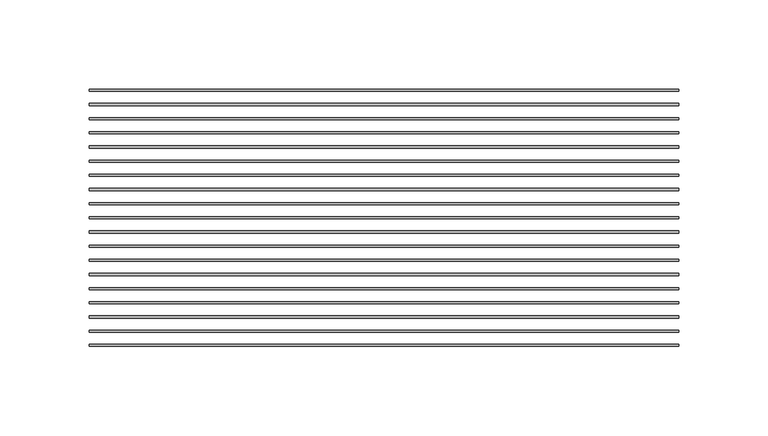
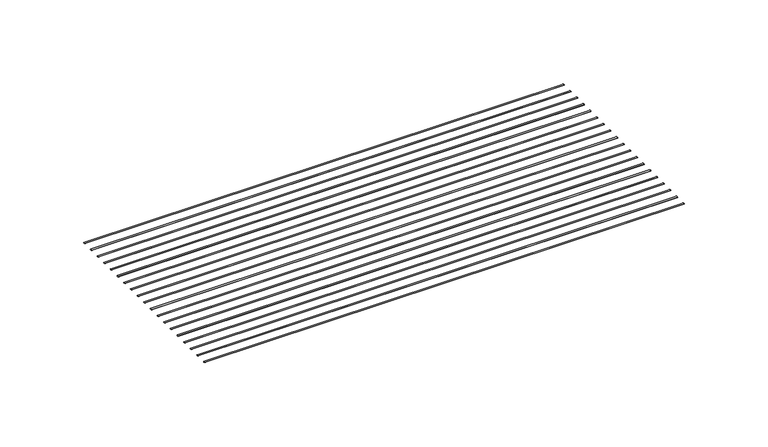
"""IFC4 building model written with IfcOpenShell, lengths in millimetres: proxy geometry, CRAi Generic Model Mesh Piece Face Based : CRAi Generic Model Mesh Piece Face Based."""

from ifc_helpers import new_model, si_unit, point, frame, origin, place, context, project, spatial, ellipse_curve, trimmed, source, transform, mapped, element, save
from ifc_brep_helpers import plane_surface, extruded_surface, advanced_brep


def generic_models_6ac29540(model_context):
    return source(origin(), model_context, "Body", "AdvancedBrep", [
        advanced_brep(
        [(-165.1, -81.1609375, -2.9765625), (-165.1, -82.3515625, -2.9765625), (165.1, -81.1609375, -2.9765625), (165.1, -82.3515625, -2.9765625)],
        [
            (0, 1, ellipse_curve(frame((-165.1, -81.75625, -2.9765625), z_axis=(-1.0, 0.0, 0.0), x_axis=(0.0, -1.0, 0.0)), 0.5953125, 0.1984375)),
            (1, 0, ellipse_curve(frame((-165.1, -81.75625, -2.9765625), z_axis=(-1.0, 0.0, 0.0), x_axis=(0.0, -1.0, 0.0)), 0.5953125, 0.1984375)),
            (2, 3, ellipse_curve(frame((165.1, -81.75625, -2.9765625), z_axis=(1.0, 0.0, 0.0), x_axis=(0.0, -1.0, 0.0)), 0.5953125, 0.1984375)),
            (3, 2, ellipse_curve(frame((165.1, -81.75625, -2.9765625), z_axis=(1.0, 0.0, 0.0), x_axis=(0.0, -1.0, 0.0)), 0.5953125, 0.1984375)),
            (0, 2),
            (3, 1),
        ],
        [
            plane_surface(frame((-165.1, -81.75625, -2.9765625), z_axis=(-1.0, 0.0, 0.0), x_axis=(0.0, 0.0, 1.0))),
            plane_surface(frame((165.1, -81.75625, -2.9765625), z_axis=(1.0, 0.0, 0.0), x_axis=(0.0, 0.0, 1.0))),
            extruded_surface(trimmed(ellipse_curve(frame((165.1, -81.75625, -2.9765625), z_axis=(-1.0, 0.0, 0.0), x_axis=(0.0, -1.0, 0.0)), 0.5953125, 0.1984375), [point((165.1, -81.1609375, -2.9765625))], [point((165.1, -82.3515625, -2.9765625))], True, "CARTESIAN"), (-330.2, 0.0, 0.0), 330.2),
            extruded_surface(trimmed(ellipse_curve(frame((165.1, -81.75625, -2.9765625), z_axis=(-1.0, 0.0, 0.0), x_axis=(0.0, -1.0, 0.0)), 0.5953125, 0.1984375), [point((165.1, -82.3515625, -2.9765625))], [point((165.1, -81.1609375, -2.9765625))], True, "CARTESIAN"), (-330.2, 0.0, 0.0), 330.2),
        ],
        [
            (0, [[1, 2]]),
            (1, [[3, 4]]),
            (2, [[-1, 5, -4, 6]]),
            (3, [[-2, -6, -3, -5]]),
        ],
    ),
        advanced_brep(
        [(-165.1, -89.0984375, -2.9765625), (-165.1, -90.2890625, -2.9765625), (165.1, -89.0984375, -2.9765625), (165.1, -90.2890625, -2.9765625)],
        [
            (0, 1, ellipse_curve(frame((-165.1, -89.69375, -2.9765625), z_axis=(-1.0, 0.0, 0.0), x_axis=(0.0, -1.0, 0.0)), 0.5953125, 0.1984375)),
            (1, 0, ellipse_curve(frame((-165.1, -89.69375, -2.9765625), z_axis=(-1.0, 0.0, 0.0), x_axis=(0.0, -1.0, 0.0)), 0.5953125, 0.1984375)),
            (2, 3, ellipse_curve(frame((165.1, -89.69375, -2.9765625), z_axis=(1.0, 0.0, 0.0), x_axis=(0.0, -1.0, 0.0)), 0.5953125, 0.1984375)),
            (3, 2, ellipse_curve(frame((165.1, -89.69375, -2.9765625), z_axis=(1.0, 0.0, 0.0), x_axis=(0.0, -1.0, 0.0)), 0.5953125, 0.1984375)),
            (0, 2),
            (3, 1),
        ],
        [
            plane_surface(frame((-165.1, -89.69375, -2.9765625), z_axis=(-1.0, 0.0, 0.0), x_axis=(0.0, 0.0, 1.0))),
            plane_surface(frame((165.1, -89.69375, -2.9765625), z_axis=(1.0, 0.0, 0.0), x_axis=(0.0, 0.0, 1.0))),
            extruded_surface(trimmed(ellipse_curve(frame((165.1, -89.69375, -2.9765625), z_axis=(-1.0, 0.0, 0.0), x_axis=(0.0, -1.0, 0.0)), 0.5953125, 0.1984375), [point((165.1, -89.0984375, -2.9765625))], [point((165.1, -90.2890625, -2.9765625))], True, "CARTESIAN"), (-330.2, 0.0, 0.0), 330.2),
            extruded_surface(trimmed(ellipse_curve(frame((165.1, -89.69375, -2.9765625), z_axis=(-1.0, 0.0, 0.0), x_axis=(0.0, -1.0, 0.0)), 0.5953125, 0.1984375), [point((165.1, -90.2890625, -2.9765625))], [point((165.1, -89.0984375, -2.9765625))], True, "CARTESIAN"), (-330.2, 0.0, 0.0), 330.2),
        ],
        [
            (0, [[1, 2]]),
            (1, [[3, 4]]),
            (2, [[-1, 5, -4, 6]]),
            (3, [[-2, -6, -3, -5]]),
        ],
    ),
        advanced_brep(
        [(-165.1, -97.0359375, -2.9765625), (-165.1, -98.2265625, -2.9765625), (165.1, -97.0359375, -2.9765625), (165.1, -98.2265625, -2.9765625)],
        [
            (0, 1, ellipse_curve(frame((-165.1, -97.63125, -2.9765625), z_axis=(-1.0, 0.0, 0.0), x_axis=(0.0, -1.0, 0.0)), 0.5953125, 0.1984375)),
            (1, 0, ellipse_curve(frame((-165.1, -97.63125, -2.9765625), z_axis=(-1.0, 0.0, 0.0), x_axis=(0.0, -1.0, 0.0)), 0.5953125, 0.1984375)),
            (2, 3, ellipse_curve(frame((165.1, -97.63125, -2.9765625), z_axis=(1.0, 0.0, 0.0), x_axis=(0.0, -1.0, 0.0)), 0.5953125, 0.1984375)),
            (3, 2, ellipse_curve(frame((165.1, -97.63125, -2.9765625), z_axis=(1.0, 0.0, 0.0), x_axis=(0.0, -1.0, 0.0)), 0.5953125, 0.1984375)),
            (0, 2),
            (3, 1),
        ],
        [
            plane_surface(frame((-165.1, -97.63125, -2.9765625), z_axis=(-1.0, 0.0, 0.0), x_axis=(0.0, 0.0, 1.0))),
            plane_surface(frame((165.1, -97.63125, -2.9765625), z_axis=(1.0, 0.0, 0.0), x_axis=(0.0, 0.0, 1.0))),
            extruded_surface(trimmed(ellipse_curve(frame((165.1, -97.63125, -2.9765625), z_axis=(-1.0, 0.0, 0.0), x_axis=(0.0, -1.0, 0.0)), 0.5953125, 0.1984375), [point((165.1, -97.0359375, -2.9765625))], [point((165.1, -98.2265625, -2.9765625))], True, "CARTESIAN"), (-330.2, 0.0, 0.0), 330.2),
            extruded_surface(trimmed(ellipse_curve(frame((165.1, -97.63125, -2.9765625), z_axis=(-1.0, 0.0, 0.0), x_axis=(0.0, -1.0, 0.0)), 0.5953125, 0.1984375), [point((165.1, -98.2265625, -2.9765625))], [point((165.1, -97.0359375, -2.9765625))], True, "CARTESIAN"), (-330.2, 0.0, 0.0), 330.2),
        ],
        [
            (0, [[1, 2]]),
            (1, [[3, 4]]),
            (2, [[-1, 5, -4, 6]]),
            (3, [[-2, -6, -3, -5]]),
        ],
    ),
        advanced_brep(
        [(-165.1, -104.9734375, -2.9765625), (-165.1, -106.1640625, -2.9765625), (165.1, -104.9734375, -2.9765625), (165.1, -106.1640625, -2.9765625)],
        [
            (0, 1, ellipse_curve(frame((-165.1, -105.56875, -2.9765625), z_axis=(-1.0, 0.0, 0.0), x_axis=(0.0, -1.0, 0.0)), 0.5953125, 0.1984375)),
            (1, 0, ellipse_curve(frame((-165.1, -105.56875, -2.9765625), z_axis=(-1.0, 0.0, 0.0), x_axis=(0.0, -1.0, 0.0)), 0.5953125, 0.1984375)),
            (2, 3, ellipse_curve(frame((165.1, -105.56875, -2.9765625), z_axis=(1.0, 0.0, 0.0), x_axis=(0.0, -1.0, 0.0)), 0.5953125, 0.1984375)),
            (3, 2, ellipse_curve(frame((165.1, -105.56875, -2.9765625), z_axis=(1.0, 0.0, 0.0), x_axis=(0.0, -1.0, 0.0)), 0.5953125, 0.1984375)),
            (0, 2),
            (3, 1),
        ],
        [
            plane_surface(frame((-165.1, -105.56875, -2.9765625), z_axis=(-1.0, 0.0, 0.0), x_axis=(0.0, 0.0, 1.0))),
            plane_surface(frame((165.1, -105.56875, -2.9765625), z_axis=(1.0, 0.0, 0.0), x_axis=(0.0, 0.0, 1.0))),
            extruded_surface(trimmed(ellipse_curve(frame((165.1, -105.56875, -2.9765625), z_axis=(-1.0, 0.0, 0.0), x_axis=(0.0, -1.0, 0.0)), 0.5953125, 0.1984375), [point((165.1, -104.9734375, -2.9765625))], [point((165.1, -106.1640625, -2.9765625))], True, "CARTESIAN"), (-330.2, 0.0, 0.0), 330.2),
            extruded_surface(trimmed(ellipse_curve(frame((165.1, -105.56875, -2.9765625), z_axis=(-1.0, 0.0, 0.0), x_axis=(0.0, -1.0, 0.0)), 0.5953125, 0.1984375), [point((165.1, -106.1640625, -2.9765625))], [point((165.1, -104.9734375, -2.9765625))], True, "CARTESIAN"), (-330.2, 0.0, 0.0), 330.2),
        ],
        [
            (0, [[1, 2]]),
            (1, [[3, 4]]),
            (2, [[-1, 5, -4, 6]]),
            (3, [[-2, -6, -3, -5]]),
        ],
    ),
        advanced_brep(
        [(-165.1, -112.9109375, -2.9765625), (-165.1, -114.1015625, -2.9765625), (165.1, -112.9109375, -2.9765625), (165.1, -114.1015625, -2.9765625)],
        [
            (0, 1, ellipse_curve(frame((-165.1, -113.50625, -2.9765625), z_axis=(-1.0, 0.0, 0.0), x_axis=(0.0, -1.0, 0.0)), 0.5953125, 0.1984375)),
            (1, 0, ellipse_curve(frame((-165.1, -113.50625, -2.9765625), z_axis=(-1.0, 0.0, 0.0), x_axis=(0.0, -1.0, 0.0)), 0.5953125, 0.1984375)),
            (2, 3, ellipse_curve(frame((165.1, -113.50625, -2.9765625), z_axis=(1.0, 0.0, 0.0), x_axis=(0.0, -1.0, 0.0)), 0.5953125, 0.1984375)),
            (3, 2, ellipse_curve(frame((165.1, -113.50625, -2.9765625), z_axis=(1.0, 0.0, 0.0), x_axis=(0.0, -1.0, 0.0)), 0.5953125, 0.1984375)),
            (0, 2),
            (3, 1),
        ],
        [
            plane_surface(frame((-165.1, -113.50625, -2.9765625), z_axis=(-1.0, 0.0, 0.0), x_axis=(0.0, 0.0, 1.0))),
            plane_surface(frame((165.1, -113.50625, -2.9765625), z_axis=(1.0, 0.0, 0.0), x_axis=(0.0, 0.0, 1.0))),
            extruded_surface(trimmed(ellipse_curve(frame((165.1, -113.50625, -2.9765625), z_axis=(-1.0, 0.0, 0.0), x_axis=(0.0, -1.0, 0.0)), 0.5953125, 0.1984375), [point((165.1, -112.9109375, -2.9765625))], [point((165.1, -114.1015625, -2.9765625))], True, "CARTESIAN"), (-330.2, 0.0, 0.0), 330.2),
            extruded_surface(trimmed(ellipse_curve(frame((165.1, -113.50625, -2.9765625), z_axis=(-1.0, 0.0, 0.0), x_axis=(0.0, -1.0, 0.0)), 0.5953125, 0.1984375), [point((165.1, -114.1015625, -2.9765625))], [point((165.1, -112.9109375, -2.9765625))], True, "CARTESIAN"), (-330.2, 0.0, 0.0), 330.2),
        ],
        [
            (0, [[1, 2]]),
            (1, [[3, 4]]),
            (2, [[-1, 5, -4, 6]]),
            (3, [[-2, -6, -3, -5]]),
        ],
    ),
        advanced_brep(
        [(-165.1, -120.8484375, -2.9765625), (-165.1, -122.0390625, -2.9765625), (165.1, -120.8484375, -2.9765625), (165.1, -122.0390625, -2.9765625)],
        [
            (0, 1, ellipse_curve(frame((-165.1, -121.44375, -2.9765625), z_axis=(-1.0, 0.0, 0.0), x_axis=(0.0, -1.0, 0.0)), 0.5953125, 0.1984375)),
            (1, 0, ellipse_curve(frame((-165.1, -121.44375, -2.9765625), z_axis=(-1.0, 0.0, 0.0), x_axis=(0.0, -1.0, 0.0)), 0.5953125, 0.1984375)),
            (2, 3, ellipse_curve(frame((165.1, -121.44375, -2.9765625), z_axis=(1.0, 0.0, 0.0), x_axis=(0.0, -1.0, 0.0)), 0.5953125, 0.1984375)),
            (3, 2, ellipse_curve(frame((165.1, -121.44375, -2.9765625), z_axis=(1.0, 0.0, 0.0), x_axis=(0.0, -1.0, 0.0)), 0.5953125, 0.1984375)),
            (0, 2),
            (3, 1),
        ],
        [
            plane_surface(frame((-165.1, -121.44375, -2.9765625), z_axis=(-1.0, 0.0, 0.0), x_axis=(0.0, 0.0, 1.0))),
            plane_surface(frame((165.1, -121.44375, -2.9765625), z_axis=(1.0, 0.0, 0.0), x_axis=(0.0, 0.0, 1.0))),
            extruded_surface(trimmed(ellipse_curve(frame((165.1, -121.44375, -2.9765625), z_axis=(-1.0, 0.0, 0.0), x_axis=(0.0, -1.0, 0.0)), 0.5953125, 0.1984375), [point((165.1, -120.8484375, -2.9765625))], [point((165.1, -122.0390625, -2.9765625))], True, "CARTESIAN"), (-330.2, 0.0, 0.0), 330.2),
            extruded_surface(trimmed(ellipse_curve(frame((165.1, -121.44375, -2.9765625), z_axis=(-1.0, 0.0, 0.0), x_axis=(0.0, -1.0, 0.0)), 0.5953125, 0.1984375), [point((165.1, -122.0390625, -2.9765625))], [point((165.1, -120.8484375, -2.9765625))], True, "CARTESIAN"), (-330.2, 0.0, 0.0), 330.2),
        ],
        [
            (0, [[1, 2]]),
            (1, [[3, 4]]),
            (2, [[-1, 5, -4, 6]]),
            (3, [[-2, -6, -3, -5]]),
        ],
    ),
        advanced_brep(
        [(-165.1, -128.7859375, -2.9765625), (-165.1, -129.9765625, -2.9765625), (165.1, -128.7859375, -2.9765625), (165.1, -129.9765625, -2.9765625)],
        [
            (0, 1, ellipse_curve(frame((-165.1, -129.38125, -2.9765625), z_axis=(-1.0, 0.0, 0.0), x_axis=(0.0, -1.0, 0.0)), 0.5953125, 0.1984375)),
            (1, 0, ellipse_curve(frame((-165.1, -129.38125, -2.9765625), z_axis=(-1.0, 0.0, 0.0), x_axis=(0.0, -1.0, 0.0)), 0.5953125, 0.1984375)),
            (2, 3, ellipse_curve(frame((165.1, -129.38125, -2.9765625), z_axis=(1.0, 0.0, 0.0), x_axis=(0.0, -1.0, 0.0)), 0.5953125, 0.1984375)),
            (3, 2, ellipse_curve(frame((165.1, -129.38125, -2.9765625), z_axis=(1.0, 0.0, 0.0), x_axis=(0.0, -1.0, 0.0)), 0.5953125, 0.1984375)),
            (0, 2),
            (3, 1),
        ],
        [
            plane_surface(frame((-165.1, -129.38125, -2.9765625), z_axis=(-1.0, 0.0, 0.0), x_axis=(0.0, 0.0, 1.0))),
            plane_surface(frame((165.1, -129.38125, -2.9765625), z_axis=(1.0, 0.0, 0.0), x_axis=(0.0, 0.0, 1.0))),
            extruded_surface(trimmed(ellipse_curve(frame((165.1, -129.38125, -2.9765625), z_axis=(-1.0, 0.0, 0.0), x_axis=(0.0, -1.0, 0.0)), 0.5953125, 0.1984375), [point((165.1, -128.7859375, -2.9765625))], [point((165.1, -129.9765625, -2.9765625))], True, "CARTESIAN"), (-330.2, 0.0, 0.0), 330.2),
            extruded_surface(trimmed(ellipse_curve(frame((165.1, -129.38125, -2.9765625), z_axis=(-1.0, 0.0, 0.0), x_axis=(0.0, -1.0, 0.0)), 0.5953125, 0.1984375), [point((165.1, -129.9765625, -2.9765625))], [point((165.1, -128.7859375, -2.9765625))], True, "CARTESIAN"), (-330.2, 0.0, 0.0), 330.2),
        ],
        [
            (0, [[1, 2]]),
            (1, [[3, 4]]),
            (2, [[-1, 5, -4, 6]]),
            (3, [[-2, -6, -3, -5]]),
        ],
    ),
        advanced_brep(
        [(-165.1, -136.7234375, -2.9765625), (-165.1, -137.9140625, -2.9765625), (165.1, -136.7234375, -2.9765625), (165.1, -137.9140625, -2.9765625)],
        [
            (0, 1, ellipse_curve(frame((-165.1, -137.31875, -2.9765625), z_axis=(-1.0, 0.0, 0.0), x_axis=(0.0, -1.0, 0.0)), 0.5953125, 0.1984375)),
            (1, 0, ellipse_curve(frame((-165.1, -137.31875, -2.9765625), z_axis=(-1.0, 0.0, 0.0), x_axis=(0.0, -1.0, 0.0)), 0.5953125, 0.1984375)),
            (2, 3, ellipse_curve(frame((165.1, -137.31875, -2.9765625), z_axis=(1.0, 0.0, 0.0), x_axis=(0.0, -1.0, 0.0)), 0.5953125, 0.1984375)),
            (3, 2, ellipse_curve(frame((165.1, -137.31875, -2.9765625), z_axis=(1.0, 0.0, 0.0), x_axis=(0.0, -1.0, 0.0)), 0.5953125, 0.1984375)),
            (0, 2),
            (3, 1),
        ],
        [
            plane_surface(frame((-165.1, -137.31875, -2.9765625), z_axis=(-1.0, 0.0, 0.0), x_axis=(0.0, 0.0, 1.0))),
            plane_surface(frame((165.1, -137.31875, -2.9765625), z_axis=(1.0, 0.0, 0.0), x_axis=(0.0, 0.0, 1.0))),
            extruded_surface(trimmed(ellipse_curve(frame((165.1, -137.31875, -2.9765625), z_axis=(-1.0, 0.0, 0.0), x_axis=(0.0, -1.0, 0.0)), 0.5953125, 0.1984375), [point((165.1, -136.7234375, -2.9765625))], [point((165.1, -137.9140625, -2.9765625))], True, "CARTESIAN"), (-330.2, 0.0, 0.0), 330.2),
            extruded_surface(trimmed(ellipse_curve(frame((165.1, -137.31875, -2.9765625), z_axis=(-1.0, 0.0, 0.0), x_axis=(0.0, -1.0, 0.0)), 0.5953125, 0.1984375), [point((165.1, -137.9140625, -2.9765625))], [point((165.1, -136.7234375, -2.9765625))], True, "CARTESIAN"), (-330.2, 0.0, 0.0), 330.2),
        ],
        [
            (0, [[1, 2]]),
            (1, [[3, 4]]),
            (2, [[-1, 5, -4, 6]]),
            (3, [[-2, -6, -3, -5]]),
        ],
    ),
        advanced_brep(
        [(-165.1, -144.6609375, -2.9765625), (-165.1, -145.8515625, -2.9765625), (165.1, -144.6609375, -2.9765625), (165.1, -145.8515625, -2.9765625)],
        [
            (0, 1, ellipse_curve(frame((-165.1, -145.25625, -2.9765625), z_axis=(-1.0, 0.0, 0.0), x_axis=(0.0, -1.0, 0.0)), 0.5953125, 0.1984375)),
            (1, 0, ellipse_curve(frame((-165.1, -145.25625, -2.9765625), z_axis=(-1.0, 0.0, 0.0), x_axis=(0.0, -1.0, 0.0)), 0.5953125, 0.1984375)),
            (2, 3, ellipse_curve(frame((165.1, -145.25625, -2.9765625), z_axis=(1.0, 0.0, 0.0), x_axis=(0.0, -1.0, 0.0)), 0.5953125, 0.1984375)),
            (3, 2, ellipse_curve(frame((165.1, -145.25625, -2.9765625), z_axis=(1.0, 0.0, 0.0), x_axis=(0.0, -1.0, 0.0)), 0.5953125, 0.1984375)),
            (0, 2),
            (3, 1),
        ],
        [
            plane_surface(frame((-165.1, -145.25625, -2.9765625), z_axis=(-1.0, 0.0, 0.0), x_axis=(0.0, 0.0, 1.0))),
            plane_surface(frame((165.1, -145.25625, -2.9765625), z_axis=(1.0, 0.0, 0.0), x_axis=(0.0, 0.0, 1.0))),
            extruded_surface(trimmed(ellipse_curve(frame((165.1, -145.25625, -2.9765625), z_axis=(-1.0, 0.0, 0.0), x_axis=(0.0, -1.0, 0.0)), 0.5953125, 0.1984375), [point((165.1, -144.6609375, -2.9765625))], [point((165.1, -145.8515625, -2.9765625))], True, "CARTESIAN"), (-330.2, 0.0, 0.0), 330.2),
            extruded_surface(trimmed(ellipse_curve(frame((165.1, -145.25625, -2.9765625), z_axis=(-1.0, 0.0, 0.0), x_axis=(0.0, -1.0, 0.0)), 0.5953125, 0.1984375), [point((165.1, -145.8515625, -2.9765625))], [point((165.1, -144.6609375, -2.9765625))], True, "CARTESIAN"), (-330.2, 0.0, 0.0), 330.2),
        ],
        [
            (0, [[1, 2]]),
            (1, [[3, 4]]),
            (2, [[-1, 5, -4, 6]]),
            (3, [[-2, -6, -3, -5]]),
        ],
    ),
        advanced_brep(
        [(-165.1, -152.5984375, -2.9765625), (-165.1, -153.7890625, -2.9765625), (165.1, -152.5984375, -2.9765625), (165.1, -153.7890625, -2.9765625)],
        [
            (0, 1, ellipse_curve(frame((-165.1, -153.19375, -2.9765625), z_axis=(-1.0, 0.0, 0.0), x_axis=(0.0, -1.0, 0.0)), 0.5953125, 0.1984375)),
            (1, 0, ellipse_curve(frame((-165.1, -153.19375, -2.9765625), z_axis=(-1.0, 0.0, 0.0), x_axis=(0.0, -1.0, 0.0)), 0.5953125, 0.1984375)),
            (2, 3, ellipse_curve(frame((165.1, -153.19375, -2.9765625), z_axis=(1.0, 0.0, 0.0), x_axis=(0.0, -1.0, 0.0)), 0.5953125, 0.1984375)),
            (3, 2, ellipse_curve(frame((165.1, -153.19375, -2.9765625), z_axis=(1.0, 0.0, 0.0), x_axis=(0.0, -1.0, 0.0)), 0.5953125, 0.1984375)),
            (0, 2),
            (3, 1),
        ],
        [
            plane_surface(frame((-165.1, -153.19375, -2.9765625), z_axis=(-1.0, 0.0, 0.0), x_axis=(0.0, 0.0, 1.0))),
            plane_surface(frame((165.1, -153.19375, -2.9765625), z_axis=(1.0, 0.0, 0.0), x_axis=(0.0, 0.0, 1.0))),
            extruded_surface(trimmed(ellipse_curve(frame((165.1, -153.19375, -2.9765625), z_axis=(-1.0, 0.0, 0.0), x_axis=(0.0, -1.0, 0.0)), 0.5953125, 0.1984375), [point((165.1, -152.5984375, -2.9765625))], [point((165.1, -153.7890625, -2.9765625))], True, "CARTESIAN"), (-330.2, 0.0, 0.0), 330.2),
            extruded_surface(trimmed(ellipse_curve(frame((165.1, -153.19375, -2.9765625), z_axis=(-1.0, 0.0, 0.0), x_axis=(0.0, -1.0, 0.0)), 0.5953125, 0.1984375), [point((165.1, -153.7890625, -2.9765625))], [point((165.1, -152.5984375, -2.9765625))], True, "CARTESIAN"), (-330.2, 0.0, 0.0), 330.2),
        ],
        [
            (0, [[1, 2]]),
            (1, [[3, 4]]),
            (2, [[-1, 5, -4, 6]]),
            (3, [[-2, -6, -3, -5]]),
        ],
    ),
        advanced_brep(
        [(-165.1, -160.5359375, -2.9765625), (-165.1, -161.7265625, -2.9765625), (165.1, -160.5359375, -2.9765625), (165.1, -161.7265625, -2.9765625)],
        [
            (0, 1, ellipse_curve(frame((-165.1, -161.13125, -2.9765625), z_axis=(-1.0, 0.0, 0.0), x_axis=(0.0, -1.0, 0.0)), 0.5953125, 0.1984375)),
            (1, 0, ellipse_curve(frame((-165.1, -161.13125, -2.9765625), z_axis=(-1.0, 0.0, 0.0), x_axis=(0.0, -1.0, 0.0)), 0.5953125, 0.1984375)),
            (2, 3, ellipse_curve(frame((165.1, -161.13125, -2.9765625), z_axis=(1.0, 0.0, 0.0), x_axis=(0.0, -1.0, 0.0)), 0.5953125, 0.1984375)),
            (3, 2, ellipse_curve(frame((165.1, -161.13125, -2.9765625), z_axis=(1.0, 0.0, 0.0), x_axis=(0.0, -1.0, 0.0)), 0.5953125, 0.1984375)),
            (0, 2),
            (3, 1),
        ],
        [
            plane_surface(frame((-165.1, -161.13125, -2.9765625), z_axis=(-1.0, 0.0, 0.0), x_axis=(0.0, 0.0, 1.0))),
            plane_surface(frame((165.1, -161.13125, -2.9765625), z_axis=(1.0, 0.0, 0.0), x_axis=(0.0, 0.0, 1.0))),
            extruded_surface(trimmed(ellipse_curve(frame((165.1, -161.13125, -2.9765625), z_axis=(-1.0, 0.0, 0.0), x_axis=(0.0, -1.0, 0.0)), 0.5953125, 0.1984375), [point((165.1, -160.5359375, -2.9765625))], [point((165.1, -161.7265625, -2.9765625))], True, "CARTESIAN"), (-330.2, 0.0, 0.0), 330.2),
            extruded_surface(trimmed(ellipse_curve(frame((165.1, -161.13125, -2.9765625), z_axis=(-1.0, 0.0, 0.0), x_axis=(0.0, -1.0, 0.0)), 0.5953125, 0.1984375), [point((165.1, -161.7265625, -2.9765625))], [point((165.1, -160.5359375, -2.9765625))], True, "CARTESIAN"), (-330.2, 0.0, 0.0), 330.2),
        ],
        [
            (0, [[1, 2]]),
            (1, [[3, 4]]),
            (2, [[-1, 5, -4, 6]]),
            (3, [[-2, -6, -3, -5]]),
        ],
    ),
        advanced_brep(
        [(-165.1, -168.4734375, -2.9765625), (-165.1, -169.6640625, -2.9765625), (165.1, -168.4734375, -2.9765625), (165.1, -169.6640625, -2.9765625)],
        [
            (0, 1, ellipse_curve(frame((-165.1, -169.06875, -2.9765625), z_axis=(-1.0, 0.0, 0.0), x_axis=(0.0, -1.0, 0.0)), 0.5953125, 0.1984375)),
            (1, 0, ellipse_curve(frame((-165.1, -169.06875, -2.9765625), z_axis=(-1.0, 0.0, 0.0), x_axis=(0.0, -1.0, 0.0)), 0.5953125, 0.1984375)),
            (2, 3, ellipse_curve(frame((165.1, -169.06875, -2.9765625), z_axis=(1.0, 0.0, 0.0), x_axis=(0.0, -1.0, 0.0)), 0.5953125, 0.1984375)),
            (3, 2, ellipse_curve(frame((165.1, -169.06875, -2.9765625), z_axis=(1.0, 0.0, 0.0), x_axis=(0.0, -1.0, 0.0)), 0.5953125, 0.1984375)),
            (0, 2),
            (3, 1),
        ],
        [
            plane_surface(frame((-165.1, -169.06875, -2.9765625), z_axis=(-1.0, 0.0, 0.0), x_axis=(0.0, 0.0, 1.0))),
            plane_surface(frame((165.1, -169.06875, -2.9765625), z_axis=(1.0, 0.0, 0.0), x_axis=(0.0, 0.0, 1.0))),
            extruded_surface(trimmed(ellipse_curve(frame((165.1, -169.06875, -2.9765625), z_axis=(-1.0, 0.0, 0.0), x_axis=(0.0, -1.0, 0.0)), 0.5953125, 0.1984375), [point((165.1, -168.4734375, -2.9765625))], [point((165.1, -169.6640625, -2.9765625))], True, "CARTESIAN"), (-330.2, 0.0, 0.0), 330.2),
            extruded_surface(trimmed(ellipse_curve(frame((165.1, -169.06875, -2.9765625), z_axis=(-1.0, 0.0, 0.0), x_axis=(0.0, -1.0, 0.0)), 0.5953125, 0.1984375), [point((165.1, -169.6640625, -2.9765625))], [point((165.1, -168.4734375, -2.9765625))], True, "CARTESIAN"), (-330.2, 0.0, 0.0), 330.2),
        ],
        [
            (0, [[1, 2]]),
            (1, [[3, 4]]),
            (2, [[-1, 5, -4, 6]]),
            (3, [[-2, -6, -3, -5]]),
        ],
    ),
        advanced_brep(
        [(-165.1, -176.4109375, -2.9765625), (-165.1, -177.6015625, -2.9765625), (165.1, -176.4109375, -2.9765625), (165.1, -177.6015625, -2.9765625)],
        [
            (0, 1, ellipse_curve(frame((-165.1, -177.00625, -2.9765625), z_axis=(-1.0, 0.0, 0.0), x_axis=(0.0, -1.0, 0.0)), 0.5953125, 0.1984375)),
            (1, 0, ellipse_curve(frame((-165.1, -177.00625, -2.9765625), z_axis=(-1.0, 0.0, 0.0), x_axis=(0.0, -1.0, 0.0)), 0.5953125, 0.1984375)),
            (2, 3, ellipse_curve(frame((165.1, -177.00625, -2.9765625), z_axis=(1.0, 0.0, 0.0), x_axis=(0.0, -1.0, 0.0)), 0.5953125, 0.1984375)),
            (3, 2, ellipse_curve(frame((165.1, -177.00625, -2.9765625), z_axis=(1.0, 0.0, 0.0), x_axis=(0.0, -1.0, 0.0)), 0.5953125, 0.1984375)),
            (0, 2),
            (3, 1),
        ],
        [
            plane_surface(frame((-165.1, -177.00625, -2.9765625), z_axis=(-1.0, 0.0, 0.0), x_axis=(0.0, 0.0, 1.0))),
            plane_surface(frame((165.1, -177.00625, -2.9765625), z_axis=(1.0, 0.0, 0.0), x_axis=(0.0, 0.0, 1.0))),
            extruded_surface(trimmed(ellipse_curve(frame((165.1, -177.00625, -2.9765625), z_axis=(-1.0, 0.0, 0.0), x_axis=(0.0, -1.0, 0.0)), 0.5953125, 0.1984375), [point((165.1, -176.4109375, -2.9765625))], [point((165.1, -177.6015625, -2.9765625))], True, "CARTESIAN"), (-330.2, 0.0, 0.0), 330.2),
            extruded_surface(trimmed(ellipse_curve(frame((165.1, -177.00625, -2.9765625), z_axis=(-1.0, 0.0, 0.0), x_axis=(0.0, -1.0, 0.0)), 0.5953125, 0.1984375), [point((165.1, -177.6015625, -2.9765625))], [point((165.1, -176.4109375, -2.9765625))], True, "CARTESIAN"), (-330.2, 0.0, 0.0), 330.2),
        ],
        [
            (0, [[1, 2]]),
            (1, [[3, 4]]),
            (2, [[-1, 5, -4, 6]]),
            (3, [[-2, -6, -3, -5]]),
        ],
    ),
        advanced_brep(
        [(-165.1, -184.3484375, -2.9765625), (-165.1, -185.5390625, -2.9765625), (165.1, -184.3484375, -2.9765625), (165.1, -185.5390625, -2.9765625)],
        [
            (0, 1, ellipse_curve(frame((-165.1, -184.94375, -2.9765625), z_axis=(-1.0, 0.0, 0.0), x_axis=(0.0, -1.0, 0.0)), 0.5953125, 0.1984375)),
            (1, 0, ellipse_curve(frame((-165.1, -184.94375, -2.9765625), z_axis=(-1.0, 0.0, 0.0), x_axis=(0.0, -1.0, 0.0)), 0.5953125, 0.1984375)),
            (2, 3, ellipse_curve(frame((165.1, -184.94375, -2.9765625), z_axis=(1.0, 0.0, 0.0), x_axis=(0.0, -1.0, 0.0)), 0.5953125, 0.1984375)),
            (3, 2, ellipse_curve(frame((165.1, -184.94375, -2.9765625), z_axis=(1.0, 0.0, 0.0), x_axis=(0.0, -1.0, 0.0)), 0.5953125, 0.1984375)),
            (0, 2),
            (3, 1),
        ],
        [
            plane_surface(frame((-165.1, -184.94375, -2.9765625), z_axis=(-1.0, 0.0, 0.0), x_axis=(0.0, 0.0, 1.0))),
            plane_surface(frame((165.1, -184.94375, -2.9765625), z_axis=(1.0, 0.0, 0.0), x_axis=(0.0, 0.0, 1.0))),
            extruded_surface(trimmed(ellipse_curve(frame((165.1, -184.94375, -2.9765625), z_axis=(-1.0, 0.0, 0.0), x_axis=(0.0, -1.0, 0.0)), 0.5953125, 0.1984375), [point((165.1, -184.3484375, -2.9765625))], [point((165.1, -185.5390625, -2.9765625))], True, "CARTESIAN"), (-330.2, 0.0, 0.0), 330.2),
            extruded_surface(trimmed(ellipse_curve(frame((165.1, -184.94375, -2.9765625), z_axis=(-1.0, 0.0, 0.0), x_axis=(0.0, -1.0, 0.0)), 0.5953125, 0.1984375), [point((165.1, -185.5390625, -2.9765625))], [point((165.1, -184.3484375, -2.9765625))], True, "CARTESIAN"), (-330.2, 0.0, 0.0), 330.2),
        ],
        [
            (0, [[1, 2]]),
            (1, [[3, 4]]),
            (2, [[-1, 5, -4, 6]]),
            (3, [[-2, -6, -3, -5]]),
        ],
    ),
        advanced_brep(
        [(-165.1, -192.2859375, -2.9765625), (-165.1, -193.4765625, -2.9765625), (165.1, -192.2859375, -2.9765625), (165.1, -193.4765625, -2.9765625)],
        [
            (0, 1, ellipse_curve(frame((-165.1, -192.88125, -2.9765625), z_axis=(-1.0, 0.0, 0.0), x_axis=(0.0, -1.0, 0.0)), 0.5953125, 0.1984375)),
            (1, 0, ellipse_curve(frame((-165.1, -192.88125, -2.9765625), z_axis=(-1.0, 0.0, 0.0), x_axis=(0.0, -1.0, 0.0)), 0.5953125, 0.1984375)),
            (2, 3, ellipse_curve(frame((165.1, -192.88125, -2.9765625), z_axis=(1.0, 0.0, 0.0), x_axis=(0.0, -1.0, 0.0)), 0.5953125, 0.1984375)),
            (3, 2, ellipse_curve(frame((165.1, -192.88125, -2.9765625), z_axis=(1.0, 0.0, 0.0), x_axis=(0.0, -1.0, 0.0)), 0.5953125, 0.1984375)),
            (0, 2),
            (3, 1),
        ],
        [
            plane_surface(frame((-165.1, -192.88125, -2.9765625), z_axis=(-1.0, 0.0, 0.0), x_axis=(0.0, 0.0, 1.0))),
            plane_surface(frame((165.1, -192.88125, -2.9765625), z_axis=(1.0, 0.0, 0.0), x_axis=(0.0, 0.0, 1.0))),
            extruded_surface(trimmed(ellipse_curve(frame((165.1, -192.88125, -2.9765625), z_axis=(-1.0, 0.0, 0.0), x_axis=(0.0, -1.0, 0.0)), 0.5953125, 0.1984375), [point((165.1, -192.2859375, -2.9765625))], [point((165.1, -193.4765625, -2.9765625))], True, "CARTESIAN"), (-330.2, 0.0, 0.0), 330.2),
            extruded_surface(trimmed(ellipse_curve(frame((165.1, -192.88125, -2.9765625), z_axis=(-1.0, 0.0, 0.0), x_axis=(0.0, -1.0, 0.0)), 0.5953125, 0.1984375), [point((165.1, -193.4765625, -2.9765625))], [point((165.1, -192.2859375, -2.9765625))], True, "CARTESIAN"), (-330.2, 0.0, 0.0), 330.2),
        ],
        [
            (0, [[1, 2]]),
            (1, [[3, 4]]),
            (2, [[-1, 5, -4, 6]]),
            (3, [[-2, -6, -3, -5]]),
        ],
    ),
        advanced_brep(
        [(-165.1, -200.2234375, -2.9765625), (-165.1, -201.4140625, -2.9765625), (165.1, -200.2234375, -2.9765625), (165.1, -201.4140625, -2.9765625)],
        [
            (0, 1, ellipse_curve(frame((-165.1, -200.81875, -2.9765625), z_axis=(-1.0, 0.0, 0.0), x_axis=(0.0, -1.0, 0.0)), 0.5953125, 0.1984375)),
            (1, 0, ellipse_curve(frame((-165.1, -200.81875, -2.9765625), z_axis=(-1.0, 0.0, 0.0), x_axis=(0.0, -1.0, 0.0)), 0.5953125, 0.1984375)),
            (2, 3, ellipse_curve(frame((165.1, -200.81875, -2.9765625), z_axis=(1.0, 0.0, 0.0), x_axis=(0.0, -1.0, 0.0)), 0.5953125, 0.1984375)),
            (3, 2, ellipse_curve(frame((165.1, -200.81875, -2.9765625), z_axis=(1.0, 0.0, 0.0), x_axis=(0.0, -1.0, 0.0)), 0.5953125, 0.1984375)),
            (0, 2),
            (3, 1),
        ],
        [
            plane_surface(frame((-165.1, -200.81875, -2.9765625), z_axis=(-1.0, 0.0, 0.0), x_axis=(0.0, 0.0, 1.0))),
            plane_surface(frame((165.1, -200.81875, -2.9765625), z_axis=(1.0, 0.0, 0.0), x_axis=(0.0, 0.0, 1.0))),
            extruded_surface(trimmed(ellipse_curve(frame((165.1, -200.81875, -2.9765625), z_axis=(-1.0, 0.0, 0.0), x_axis=(0.0, -1.0, 0.0)), 0.5953125, 0.1984375), [point((165.1, -200.2234375, -2.9765625))], [point((165.1, -201.4140625, -2.9765625))], True, "CARTESIAN"), (-330.2, 0.0, 0.0), 330.2),
            extruded_surface(trimmed(ellipse_curve(frame((165.1, -200.81875, -2.9765625), z_axis=(-1.0, 0.0, 0.0), x_axis=(0.0, -1.0, 0.0)), 0.5953125, 0.1984375), [point((165.1, -201.4140625, -2.9765625))], [point((165.1, -200.2234375, -2.9765625))], True, "CARTESIAN"), (-330.2, 0.0, 0.0), 330.2),
        ],
        [
            (0, [[1, 2]]),
            (1, [[3, 4]]),
            (2, [[-1, 5, -4, 6]]),
            (3, [[-2, -6, -3, -5]]),
        ],
    ),
        advanced_brep(
        [(-165.1, -208.1609375, -2.9765625), (-165.1, -209.3515625, -2.9765625), (165.1, -208.1609375, -2.9765625), (165.1, -209.3515625, -2.9765625)],
        [
            (0, 1, ellipse_curve(frame((-165.1, -208.75625, -2.9765625), z_axis=(-1.0, 0.0, 0.0), x_axis=(0.0, -1.0, 0.0)), 0.5953125, 0.1984375)),
            (1, 0, ellipse_curve(frame((-165.1, -208.75625, -2.9765625), z_axis=(-1.0, 0.0, 0.0), x_axis=(0.0, -1.0, 0.0)), 0.5953125, 0.1984375)),
            (2, 3, ellipse_curve(frame((165.1, -208.75625, -2.9765625), z_axis=(1.0, 0.0, 0.0), x_axis=(0.0, -1.0, 0.0)), 0.5953125, 0.1984375)),
            (3, 2, ellipse_curve(frame((165.1, -208.75625, -2.9765625), z_axis=(1.0, 0.0, 0.0), x_axis=(0.0, -1.0, 0.0)), 0.5953125, 0.1984375)),
            (0, 2),
            (3, 1),
        ],
        [
            plane_surface(frame((-165.1, -208.75625, -2.9765625), z_axis=(-1.0, 0.0, 0.0), x_axis=(0.0, 0.0, 1.0))),
            plane_surface(frame((165.1, -208.75625, -2.9765625), z_axis=(1.0, 0.0, 0.0), x_axis=(0.0, 0.0, 1.0))),
            extruded_surface(trimmed(ellipse_curve(frame((165.1, -208.75625, -2.9765625), z_axis=(-1.0, 0.0, 0.0), x_axis=(0.0, -1.0, 0.0)), 0.5953125, 0.1984375), [point((165.1, -208.1609375, -2.9765625))], [point((165.1, -209.3515625, -2.9765625))], True, "CARTESIAN"), (-330.2, 0.0, 0.0), 330.2),
            extruded_surface(trimmed(ellipse_curve(frame((165.1, -208.75625, -2.9765625), z_axis=(-1.0, 0.0, 0.0), x_axis=(0.0, -1.0, 0.0)), 0.5953125, 0.1984375), [point((165.1, -209.3515625, -2.9765625))], [point((165.1, -208.1609375, -2.9765625))], True, "CARTESIAN"), (-330.2, 0.0, 0.0), 330.2),
        ],
        [
            (0, [[1, 2]]),
            (1, [[3, 4]]),
            (2, [[-1, 5, -4, 6]]),
            (3, [[-2, -6, -3, -5]]),
        ],
    ),
        advanced_brep(
        [(-165.1, -216.0984375, -2.9765625), (-165.1, -217.2890625, -2.9765625), (165.1, -216.0984375, -2.9765625), (165.1, -217.2890625, -2.9765625)],
        [
            (0, 1, ellipse_curve(frame((-165.1, -216.69375, -2.9765625), z_axis=(-1.0, 0.0, 0.0), x_axis=(0.0, -1.0, 0.0)), 0.5953125, 0.1984375)),
            (1, 0, ellipse_curve(frame((-165.1, -216.69375, -2.9765625), z_axis=(-1.0, 0.0, 0.0), x_axis=(0.0, -1.0, 0.0)), 0.5953125, 0.1984375)),
            (2, 3, ellipse_curve(frame((165.1, -216.69375, -2.9765625), z_axis=(1.0, 0.0, 0.0), x_axis=(0.0, -1.0, 0.0)), 0.5953125, 0.1984375)),
            (3, 2, ellipse_curve(frame((165.1, -216.69375, -2.9765625), z_axis=(1.0, 0.0, 0.0), x_axis=(0.0, -1.0, 0.0)), 0.5953125, 0.1984375)),
            (0, 2),
            (3, 1),
        ],
        [
            plane_surface(frame((-165.1, -216.69375, -2.9765625), z_axis=(-1.0, 0.0, 0.0), x_axis=(0.0, 0.0, 1.0))),
            plane_surface(frame((165.1, -216.69375, -2.9765625), z_axis=(1.0, 0.0, 0.0), x_axis=(0.0, 0.0, 1.0))),
            extruded_surface(trimmed(ellipse_curve(frame((165.1, -216.69375, -2.9765625), z_axis=(-1.0, 0.0, 0.0), x_axis=(0.0, -1.0, 0.0)), 0.5953125, 0.1984375), [point((165.1, -216.0984375, -2.9765625))], [point((165.1, -217.2890625, -2.9765625))], True, "CARTESIAN"), (-330.2, 0.0, 0.0), 330.2),
            extruded_surface(trimmed(ellipse_curve(frame((165.1, -216.69375, -2.9765625), z_axis=(-1.0, 0.0, 0.0), x_axis=(0.0, -1.0, 0.0)), 0.5953125, 0.1984375), [point((165.1, -217.2890625, -2.9765625))], [point((165.1, -216.0984375, -2.9765625))], True, "CARTESIAN"), (-330.2, 0.0, 0.0), 330.2),
        ],
        [
            (0, [[1, 2]]),
            (1, [[3, 4]]),
            (2, [[-1, 5, -4, 6]]),
            (3, [[-2, -6, -3, -5]]),
        ],
    ),
        advanced_brep(
        [(-165.1, -224.0359375, -2.9765625), (-165.1, -225.2265625, -2.9765625), (165.1, -224.0359375, -2.9765625), (165.1, -225.2265625, -2.9765625)],
        [
            (0, 1, ellipse_curve(frame((-165.1, -224.63125, -2.9765625), z_axis=(-1.0, 0.0, 0.0), x_axis=(0.0, -1.0, 0.0)), 0.5953125, 0.1984375)),
            (1, 0, ellipse_curve(frame((-165.1, -224.63125, -2.9765625), z_axis=(-1.0, 0.0, 0.0), x_axis=(0.0, -1.0, 0.0)), 0.5953125, 0.1984375)),
            (2, 3, ellipse_curve(frame((165.1, -224.63125, -2.9765625), z_axis=(1.0, 0.0, 0.0), x_axis=(0.0, -1.0, 0.0)), 0.5953125, 0.1984375)),
            (3, 2, ellipse_curve(frame((165.1, -224.63125, -2.9765625), z_axis=(1.0, 0.0, 0.0), x_axis=(0.0, -1.0, 0.0)), 0.5953125, 0.1984375)),
            (0, 2),
            (3, 1),
        ],
        [
            plane_surface(frame((-165.1, -224.63125, -2.9765625), z_axis=(-1.0, 0.0, 0.0), x_axis=(0.0, 0.0, 1.0))),
            plane_surface(frame((165.1, -224.63125, -2.9765625), z_axis=(1.0, 0.0, 0.0), x_axis=(0.0, 0.0, 1.0))),
            extruded_surface(trimmed(ellipse_curve(frame((165.1, -224.63125, -2.9765625), z_axis=(-1.0, 0.0, 0.0), x_axis=(0.0, -1.0, 0.0)), 0.5953125, 0.1984375), [point((165.1, -224.0359375, -2.9765625))], [point((165.1, -225.2265625, -2.9765625))], True, "CARTESIAN"), (-330.2, 0.0, 0.0), 330.2),
            extruded_surface(trimmed(ellipse_curve(frame((165.1, -224.63125, -2.9765625), z_axis=(-1.0, 0.0, 0.0), x_axis=(0.0, -1.0, 0.0)), 0.5953125, 0.1984375), [point((165.1, -225.2265625, -2.9765625))], [point((165.1, -224.0359375, -2.9765625))], True, "CARTESIAN"), (-330.2, 0.0, 0.0), 330.2),
        ],
        [
            (0, [[1, 2]]),
            (1, [[3, 4]]),
            (2, [[-1, 5, -4, 6]]),
            (3, [[-2, -6, -3, -5]]),
        ],
    ),
    ])


if __name__ == "__main__":
    model = new_model("IFC4")
    model_context = context("Model", 3, world=origin())
    ifc_project = project(units=[si_unit("LENGTHUNIT", "METRE", prefix="MILLI")], contexts=[model_context])
    site = spatial("IfcSite", under=ifc_project)
    building = spatial("IfcBuilding", under=site)
    placement = place(None, origin())
    generic_models_shape = generic_models_6ac29540(model_context)
    element("IfcBuildingElementProxy", 1, Name="CRAi Generic Model Mesh Piece Face Based : CRAi Generic Model Mesh Piece Face Based", ObjectType="CRAi Generic Model Mesh Piece Face Based : CRAi Generic Model Mesh Piece Face Based", at=placement, inside=building, context=model_context, shape_type="MappedRepresentation", body=[
        mapped(generic_models_shape, transform((0.0, 0.0, 0.0), x_axis=(1.0, 0.0, 0.0), y_axis=(0.0, 1.0, 0.0), z_axis=(0.0, 0.0, 1.0))),
    ])
    save(model, "model.ifc")
